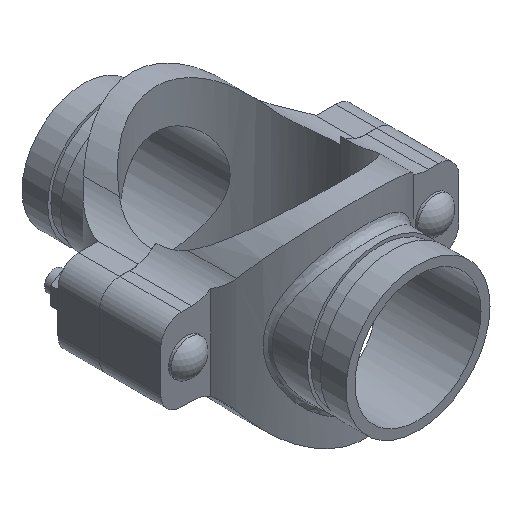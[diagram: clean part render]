
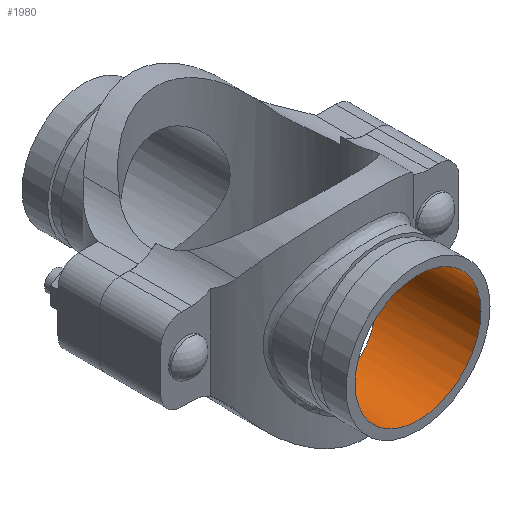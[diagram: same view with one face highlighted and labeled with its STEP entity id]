
A CAD part, isometric view. The second image highlights one B-rep face of the part: STEP entity #1980.
In plain terms, the highlighted cylindrical face has radius 38.894 mm (diameter 77.787 mm), a full revolution.
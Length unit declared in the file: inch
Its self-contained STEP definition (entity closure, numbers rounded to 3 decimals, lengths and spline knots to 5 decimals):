
#50=B_SPLINE_CURVE_WITH_KNOTS('',3,(#4040,#4041,#4042,#4043,#4044,#4045,
#4046,#4047,#4048,#4049,#4050,#4051,#4052,#4053,#4054,#4055,#4056,#4057,
#4058,#4059,#4060,#4061,#4062,#4063,#4064,#4065,#4066,#4067,#4068,#4069,
#4070,#4071,#4072,#4073,#4074,#4075,#4076,#4077,#4078,#4079,#4080,#4081,
#4082,#4083,#4084,#4085,#4086,#4087,#4088,#4089,#4090,#4091,#4092,#4093,
#4094,#4095,#4096,#4097,#4098,#4099,#4100,#4101,#4102,#4103,#4104,#4105),
 .UNSPECIFIED.,.T.,.F.,(4,2,2,2,2,2,2,2,2,2,2,2,2,2,2,2,2,2,2,2,2,2,2,2,
2,2,2,2,2,2,2,2,4),(0.,0.76949,1.53899,2.30848,
3.07797,3.83802,4.59808,5.35813,6.11819,
6.87824,7.63829,8.39835,9.1584,9.9279,
10.69739,11.46688,12.23637,13.00587,13.77536,
14.54485,15.31434,16.0744,16.83445,17.59451,
18.35456,19.11461,19.87467,20.63472,21.39478,
22.16427,22.93376,23.70325,24.47275),
 .UNSPECIFIED.);
#95=CYLINDRICAL_SURFACE('',#2213,1.53125);
#212=FACE_OUTER_BOUND('',#334,.T.);
#334=EDGE_LOOP('',(#1588,#1589,#1590,#1591));
#484=LINE('',#4039,#632);
#632=VECTOR('',#2674,1.53125);
#730=CIRCLE('',#2214,1.53125);
#895=VERTEX_POINT('',#4036);
#896=VERTEX_POINT('',#4038);
#1140=EDGE_CURVE('',#895,#895,#730,.T.);
#1141=EDGE_CURVE('',#895,#896,#484,.T.);
#1142=EDGE_CURVE('',#896,#896,#50,.T.);
#1588=ORIENTED_EDGE('',*,*,#1140,.F.);
#1589=ORIENTED_EDGE('',*,*,#1141,.T.);
#1590=ORIENTED_EDGE('',*,*,#1142,.F.);
#1591=ORIENTED_EDGE('',*,*,#1141,.F.);
#1980=ADVANCED_FACE('',(#212),#95,.F.);
#2213=AXIS2_PLACEMENT_3D('',#4035,#2670,#2671);
#2214=AXIS2_PLACEMENT_3D('',#4037,#2672,#2673);
#2670=DIRECTION('center_axis',(0.,-1.,0.));
#2671=DIRECTION('ref_axis',(-1.,0.,0.));
#2672=DIRECTION('center_axis',(0.,-1.,0.));
#2673=DIRECTION('ref_axis',(-1.,0.,0.));
#2674=DIRECTION('',(0.,-1.,0.));
#4035=CARTESIAN_POINT('Origin',(0.,4.13,0.));
#4036=CARTESIAN_POINT('',(1.53125,4.13,0.));
#4037=CARTESIAN_POINT('Origin',(0.,4.13,0.));
#4038=CARTESIAN_POINT('',(1.53125,1.64857,0.));
#4039=CARTESIAN_POINT('',(1.53125,4.13,0.));
#4040=CARTESIAN_POINT('Ctrl Pts',(1.53125,1.64857,0.));
#4041=CARTESIAN_POINT('Ctrl Pts',(1.53125,1.64857,-0.10098));
#4042=CARTESIAN_POINT('Ctrl Pts',(1.52113,1.65813,-0.20339));
#4043=CARTESIAN_POINT('Ctrl Pts',(1.48054,1.69448,-0.40399));
#4044=CARTESIAN_POINT('Ctrl Pts',(1.45009,1.72113,-0.50223));
#4045=CARTESIAN_POINT('Ctrl Pts',(1.37128,1.78456,-0.6889));
#4046=CARTESIAN_POINT('Ctrl Pts',(1.32285,1.82128,-0.77754));
#4047=CARTESIAN_POINT('Ctrl Pts',(1.21189,1.89693,-0.94118));
#4048=CARTESIAN_POINT('Ctrl Pts',(1.14932,1.9358,-1.01619));
#4049=CARTESIAN_POINT('Ctrl Pts',(1.01701,2.00844,-1.14851));
#4050=CARTESIAN_POINT('Ctrl Pts',(0.94244,2.04503,-1.21092));
#4051=CARTESIAN_POINT('Ctrl Pts',(0.77875,2.11279,-1.32214));
#4052=CARTESIAN_POINT('Ctrl Pts',(0.68961,2.14393,-1.37097));
#4053=CARTESIAN_POINT('Ctrl Pts',(0.50176,2.1955,-1.4503));
#4054=CARTESIAN_POINT('Ctrl Pts',(0.40284,2.21597,-1.48086));
#4055=CARTESIAN_POINT('Ctrl Pts',(0.20184,2.24322,-1.52135));
#4056=CARTESIAN_POINT('Ctrl Pts',(0.09974,2.25,-1.53125));
#4057=CARTESIAN_POINT('Ctrl Pts',(-0.09974,2.25,-1.53125));
#4058=CARTESIAN_POINT('Ctrl Pts',(-0.20184,2.24322,-1.52135));
#4059=CARTESIAN_POINT('Ctrl Pts',(-0.40284,2.21597,-1.48086));
#4060=CARTESIAN_POINT('Ctrl Pts',(-0.50176,2.1955,-1.4503));
#4061=CARTESIAN_POINT('Ctrl Pts',(-0.68961,2.14393,-1.37097));
#4062=CARTESIAN_POINT('Ctrl Pts',(-0.77875,2.11279,-1.32214));
#4063=CARTESIAN_POINT('Ctrl Pts',(-0.94244,2.04503,-1.21092));
#4064=CARTESIAN_POINT('Ctrl Pts',(-1.01701,2.00844,-1.14851));
#4065=CARTESIAN_POINT('Ctrl Pts',(-1.14932,1.9358,-1.01619));
#4066=CARTESIAN_POINT('Ctrl Pts',(-1.21189,1.89693,-0.94118));
#4067=CARTESIAN_POINT('Ctrl Pts',(-1.32285,1.82128,-0.77754));
#4068=CARTESIAN_POINT('Ctrl Pts',(-1.37128,1.78456,-0.6889));
#4069=CARTESIAN_POINT('Ctrl Pts',(-1.45009,1.72113,-0.50223));
#4070=CARTESIAN_POINT('Ctrl Pts',(-1.48054,1.69448,-0.40399));
#4071=CARTESIAN_POINT('Ctrl Pts',(-1.52113,1.65813,-0.20339));
#4072=CARTESIAN_POINT('Ctrl Pts',(-1.53125,1.64857,-0.10098));
#4073=CARTESIAN_POINT('Ctrl Pts',(-1.53125,1.64857,0.10098));
#4074=CARTESIAN_POINT('Ctrl Pts',(-1.52113,1.65813,0.20339));
#4075=CARTESIAN_POINT('Ctrl Pts',(-1.48054,1.69448,0.40399));
#4076=CARTESIAN_POINT('Ctrl Pts',(-1.45009,1.72113,0.50223));
#4077=CARTESIAN_POINT('Ctrl Pts',(-1.37128,1.78456,0.6889));
#4078=CARTESIAN_POINT('Ctrl Pts',(-1.32285,1.82128,0.77754));
#4079=CARTESIAN_POINT('Ctrl Pts',(-1.21189,1.89693,0.94118));
#4080=CARTESIAN_POINT('Ctrl Pts',(-1.14932,1.9358,1.01619));
#4081=CARTESIAN_POINT('Ctrl Pts',(-1.01701,2.00844,1.14851));
#4082=CARTESIAN_POINT('Ctrl Pts',(-0.94244,2.04503,1.21092));
#4083=CARTESIAN_POINT('Ctrl Pts',(-0.77875,2.11279,1.32214));
#4084=CARTESIAN_POINT('Ctrl Pts',(-0.68961,2.14393,1.37097));
#4085=CARTESIAN_POINT('Ctrl Pts',(-0.50176,2.1955,1.4503));
#4086=CARTESIAN_POINT('Ctrl Pts',(-0.40284,2.21597,1.48086));
#4087=CARTESIAN_POINT('Ctrl Pts',(-0.20184,2.24322,1.52135));
#4088=CARTESIAN_POINT('Ctrl Pts',(-0.09974,2.25,1.53125));
#4089=CARTESIAN_POINT('Ctrl Pts',(0.09974,2.25,1.53125));
#4090=CARTESIAN_POINT('Ctrl Pts',(0.20184,2.24322,1.52135));
#4091=CARTESIAN_POINT('Ctrl Pts',(0.40284,2.21597,1.48086));
#4092=CARTESIAN_POINT('Ctrl Pts',(0.50176,2.1955,1.4503));
#4093=CARTESIAN_POINT('Ctrl Pts',(0.68961,2.14393,1.37097));
#4094=CARTESIAN_POINT('Ctrl Pts',(0.77875,2.11279,1.32214));
#4095=CARTESIAN_POINT('Ctrl Pts',(0.94244,2.04503,1.21092));
#4096=CARTESIAN_POINT('Ctrl Pts',(1.01701,2.00844,1.14851));
#4097=CARTESIAN_POINT('Ctrl Pts',(1.14932,1.9358,1.01619));
#4098=CARTESIAN_POINT('Ctrl Pts',(1.21189,1.89693,0.94118));
#4099=CARTESIAN_POINT('Ctrl Pts',(1.32285,1.82128,0.77754));
#4100=CARTESIAN_POINT('Ctrl Pts',(1.37128,1.78456,0.6889));
#4101=CARTESIAN_POINT('Ctrl Pts',(1.45009,1.72113,0.50223));
#4102=CARTESIAN_POINT('Ctrl Pts',(1.48054,1.69448,0.40399));
#4103=CARTESIAN_POINT('Ctrl Pts',(1.52113,1.65813,0.20339));
#4104=CARTESIAN_POINT('Ctrl Pts',(1.53125,1.64857,0.10098));
#4105=CARTESIAN_POINT('Ctrl Pts',(1.53125,1.64857,0.));
